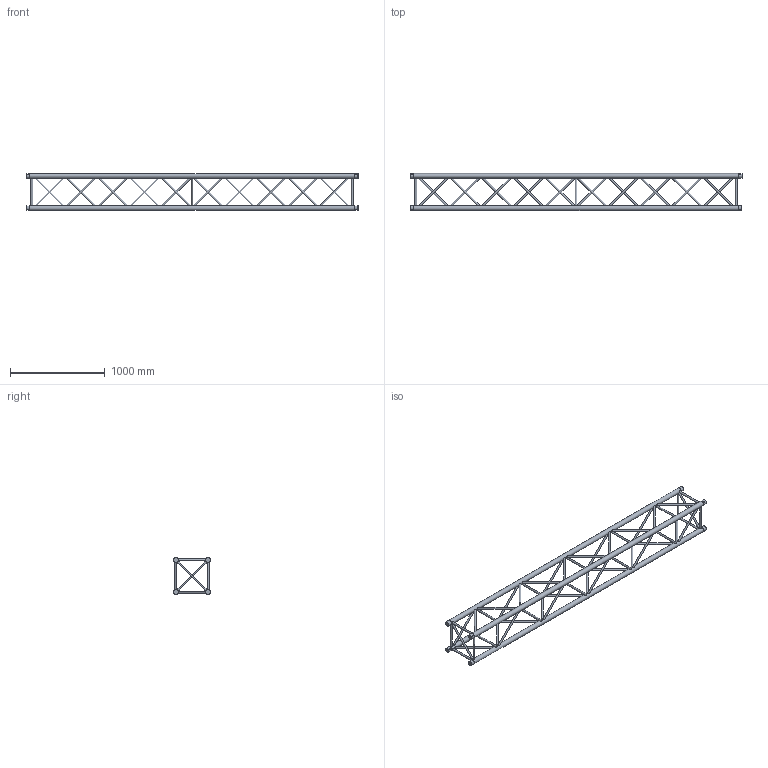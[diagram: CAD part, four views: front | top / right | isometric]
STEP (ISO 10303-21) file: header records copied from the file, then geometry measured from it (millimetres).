
FILE_DESCRIPTION(/* description */ (''),/* implementation_level */ '2;1');
FILE_NAME(/* name */ 'M:\Symbolen\STP\40-er truss\111080200.stp',/* time_stamp */ '2015-02-26T16:49:40+01:00',/* author */ ('Stephan'),/* organization */ (''),/* preprocessor_version */ 'ST-DEVELOPER v15.6',/* originating_system */ 'Autodesk Inventor 2015',/* authorisation */ '');
FILE_SCHEMA (('AUTOMOTIVE_DESIGN { 1 0 10303 214 3 1 1 }'));
Length unit declared in the file: millimetre
Products named in the file (1): 160023961
Bounding box: 3500 x 389.98 x 389.98 mm (x, y, z)
Volume: 33328695.8 mm3; surface area: 3563387.8 mm2
Topology: 47 solids, 55 shells, 373 faces, 689 edges, 426 vertices
Faces by surface type: plane 214, cylinder 151, cone 8
Full cylindrical faces by diameter (mm): 10 x8, 20 x51, 49.5 x8, 51 x4
Entity records: 9764 total; most frequent: CARTESIAN_POINT 2674, ORIENTED_EDGE 1228, DIRECTION 1224, EDGE_CURVE 598, AXIS2_PLACEMENT_3D 524, EDGE_LOOP 492, VERTEX_POINT 422, STYLED_ITEM 297
